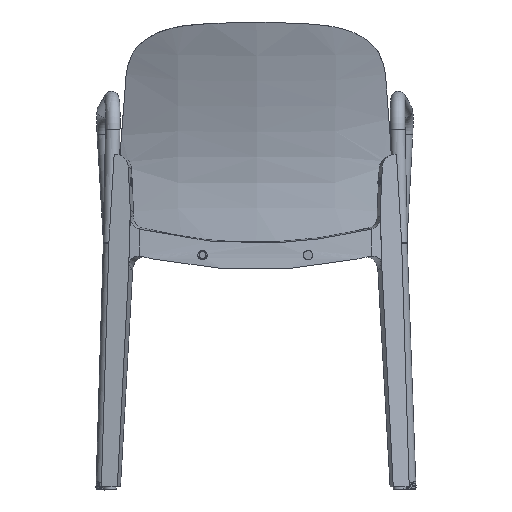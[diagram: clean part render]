
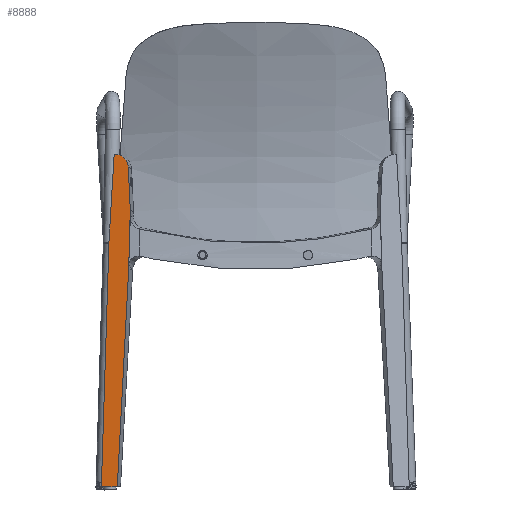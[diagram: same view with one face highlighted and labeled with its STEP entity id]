
A CAD part, front view. The second image highlights one B-rep face of the part: STEP entity #8888.
In plain terms, the highlighted planar face has unit normal (-0.173, -0.983, 0.065) as drawn and (0.983, -0.173, 0.065) by its records, which use the part's own axes.
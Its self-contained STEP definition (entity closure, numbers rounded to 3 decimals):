
#435=PLANE('',#9718);
#825=FACE_OUTER_BOUND('',#1360,.T.);
#1360=EDGE_LOOP('',(#7461,#7462,#7463,#7464,#7465,#7466,#7467));
#1569=ELLIPSE('',#9665,23.507,23.5);
#2389=LINE('',#27072,#2946);
#2396=LINE('',#27115,#2953);
#2433=LINE('',#29536,#2990);
#2435=LINE('',#29539,#2992);
#2436=LINE('',#29542,#2993);
#2437=LINE('',#29543,#2994);
#2946=VECTOR('',#11075,10.);
#2953=VECTOR('',#11084,10.);
#2990=VECTOR('',#11229,10.);
#2992=VECTOR('',#11233,10.);
#2993=VECTOR('',#11236,10.);
#2994=VECTOR('',#11237,10.);
#3983=VERTEX_POINT('',#27069);
#3984=VERTEX_POINT('',#27071);
#3991=VERTEX_POINT('',#27113);
#3998=VERTEX_POINT('',#27161);
#4050=VERTEX_POINT('',#29533);
#4051=VERTEX_POINT('',#29535);
#4052=VERTEX_POINT('',#29541);
#5135=EDGE_CURVE('',#3984,#3983,#2389,.T.);
#5144=EDGE_CURVE('',#3983,#3991,#2396,.T.);
#5152=EDGE_CURVE('',#3991,#3998,#1569,.T.);
#5247=EDGE_CURVE('',#4051,#4050,#2433,.T.);
#5249=EDGE_CURVE('',#3998,#4051,#2435,.T.);
#5250=EDGE_CURVE('',#4050,#4052,#2436,.T.);
#5251=EDGE_CURVE('',#4052,#3984,#2437,.T.);
#7461=ORIENTED_EDGE('',*,*,#5135,.T.);
#7462=ORIENTED_EDGE('',*,*,#5144,.T.);
#7463=ORIENTED_EDGE('',*,*,#5152,.T.);
#7464=ORIENTED_EDGE('',*,*,#5249,.T.);
#7465=ORIENTED_EDGE('',*,*,#5247,.T.);
#7466=ORIENTED_EDGE('',*,*,#5250,.T.);
#7467=ORIENTED_EDGE('',*,*,#5251,.T.);
#8888=ADVANCED_FACE('',(#825),#435,.T.);
#9665=AXIS2_PLACEMENT_3D('',#27163,#11091,#11092);
#9718=AXIS2_PLACEMENT_3D('',#29540,#11234,#11235);
#11075=DIRECTION('',(-0.061,0.027,0.998));
#11084=DIRECTION('',(-0.074,-0.047,0.996));
#11091=DIRECTION('center_axis',(0.983,-0.173,0.065));
#11092=DIRECTION('ref_axis',(-0.06,0.031,0.998));
#11229=DIRECTION('',(0.06,-0.031,-0.998));
#11233=DIRECTION('',(0.055,-0.059,-0.997));
#11234=DIRECTION('center_axis',(0.983,-0.173,0.065));
#11235=DIRECTION('ref_axis',(0.06,-0.031,-0.998));
#11236=DIRECTION('',(0.173,0.985,0.));
#11237=DIRECTION('',(-0.056,0.052,0.997));
#27069=CARTESIAN_POINT('',(22.181,-214.48,63.19));
#27071=CARTESIAN_POINT('',(28.334,-217.209,-37.832));
#27072=CARTESIAN_POINT('',(19.292,-213.199,110.624));
#27113=CARTESIAN_POINT('',(16.706,-217.966,137.224));
#27115=CARTESIAN_POINT('',(15.855,-218.507,148.725));
#27161=CARTESIAN_POINT('',(10.976,-242.292,159.25));
#27163=CARTESIAN_POINT('Origin',(12.726,-241.085,135.84));
#29533=CARTESIAN_POINT('',(44.761,-264.333,-414.337));
#29535=CARTESIAN_POINT('',(19.249,-251.209,9.351));
#29536=CARTESIAN_POINT('',(27.434,-255.42,-126.571));
#29539=CARTESIAN_POINT('',(15.135,-246.775,83.896));
#29540=CARTESIAN_POINT('Origin',(10.2,-246.554,159.632));
#29541=CARTESIAN_POINT('',(49.604,-236.827,-414.337));
#29542=CARTESIAN_POINT('',(47.65,-247.927,-414.337));
#29543=CARTESIAN_POINT('',(22.831,-212.133,59.594));
